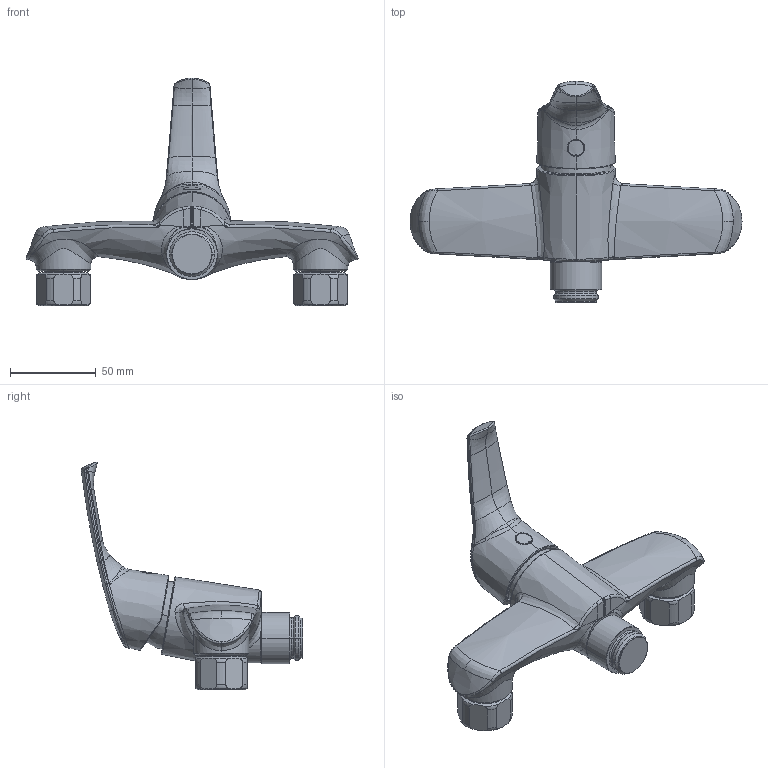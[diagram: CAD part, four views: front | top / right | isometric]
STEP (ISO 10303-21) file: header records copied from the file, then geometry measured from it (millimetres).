
FILE_DESCRIPTION((''),'2;1');
FILE_NAME('67358--','2026-10-14T11:43:31',('simi1'),(''),'CREO PARAMETRIC BY PTC INC, 2022244','CREO PARAMETRIC BY PTC INC, 2022244','');
FILE_SCHEMA(('CONFIG_CONTROL_DESIGN'));
Products named in the file (1): 67358--
Bounding box: 193.76 x 129.2 x 132.93 mm (x, y, z)
Surface area: 55000.3 mm2 (no closed solid volume)
Topology: 0 solids, 28 shells, 506 faces, 1638 edges, 1137 vertices
Faces by surface type: bspline 282, cylinder 68, plane 66, torus 52, cone 28, sphere 6, extrusion 4
Entity records: 39318 total; most frequent: CARTESIAN_POINT 27954, ORIENTED_EDGE 2698, EDGE_CURVE 1638, DIRECTION 1516, VERTEX_POINT 1137, B_SPLINE_CURVE_WITH_KNOTS 1005, AXIS2_PLACEMENT_3D 655, EDGE_LOOP 506
